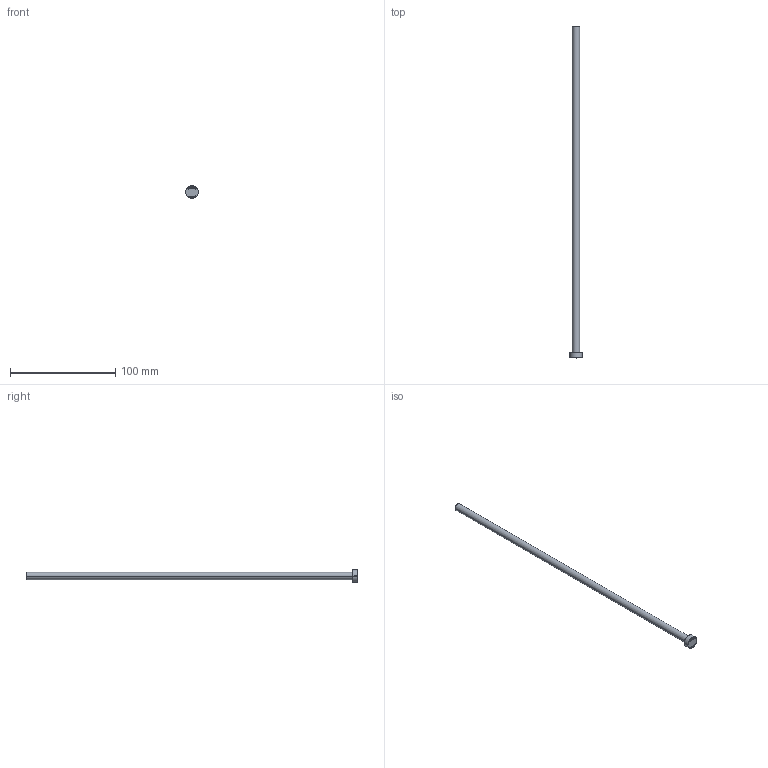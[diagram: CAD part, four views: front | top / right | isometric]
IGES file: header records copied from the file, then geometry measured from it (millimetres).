
Start section: SolidWorks IGES file using analytic representation for surfaces
Global section: file name: C:\Users\User\Downloads\Matripeça 31-08 tar\PB - PINO EXTRATOR TIPO _B_ (CATÁLOGO)\PB07,0\PB07,0315.IGS; native system: SolidWorks 2024; preprocessor: SolidWorks 2024; author: User; date: 260901.144843; units: millimetre
Bounding box: 12 x 315 x 12 mm (x, y, z)
Surface area: 7236.7 mm2 (no closed solid volume)
Topology: 0 solids, 0 shells, 399 faces, 3669 edges, 3669 vertices
Faces by surface type: bspline 385, revolution 14
